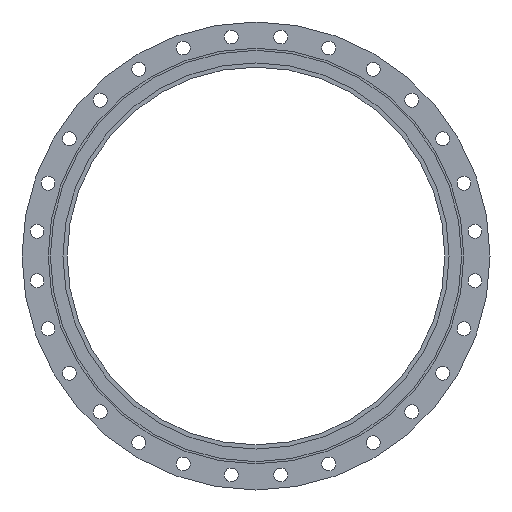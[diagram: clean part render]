
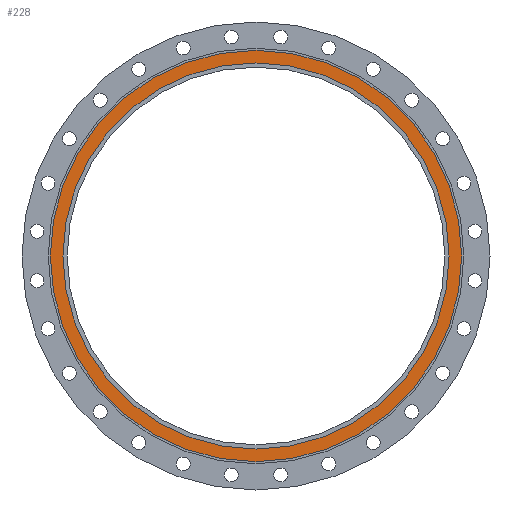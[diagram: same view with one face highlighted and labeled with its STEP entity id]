
A CAD part, left-side view. The second image highlights one B-rep face of the part: STEP entity #228.
In plain terms, the highlighted planar face has unit normal (-1, 0, 0).
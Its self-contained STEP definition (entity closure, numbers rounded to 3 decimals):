
#228=ADVANCED_FACE('',(#8395,#8397),#8399,.T.);
#8395=FACE_BOUND('',#8396,.T.);
#8396=EDGE_LOOP('',(#15845,#15846));
#8397=FACE_BOUND('',#8398,.T.);
#8398=EDGE_LOOP('',(#15847,#15848));
#8399=PLANE('',#8400);
#8400=AXIS2_PLACEMENT_3D('',#8401,#8402,#8403);
#8401=CARTESIAN_POINT('',(1345.342,23.166,0.));
#8402=DIRECTION('',(-1.,0.,0.));
#8403=DIRECTION('',(0.,0.,1.));
#15845=ORIENTED_EDGE('',*,*,#21017,.F.);
#15846=ORIENTED_EDGE('',*,*,#21018,.F.);
#15847=ORIENTED_EDGE('',*,*,#21015,.T.);
#15848=ORIENTED_EDGE('',*,*,#21016,.T.);
#21015=EDGE_CURVE('',#24461,#24462,#24463,.T.);
#21016=EDGE_CURVE('',#24462,#24461,#24464,.T.);
#21017=EDGE_CURVE('',#24465,#24466,#24467,.T.);
#21018=EDGE_CURVE('',#24466,#24465,#24468,.T.);
#24461=VERTEX_POINT('',#32751);
#24462=VERTEX_POINT('',#32752);
#24463=CIRCLE('',#32753,460.);
#24464=CIRCLE('',#32757,460.);
#24465=VERTEX_POINT('',#32761);
#24466=VERTEX_POINT('',#32762);
#24467=CIRCLE('',#32763,490.);
#24468=CIRCLE('',#32767,490.);
#32751=CARTESIAN_POINT('',(1345.342,53.166,0.));
#32752=CARTESIAN_POINT('',(1345.342,973.166,0.));
#32753=AXIS2_PLACEMENT_3D('',#32754,#32755,#32756);
#32754=CARTESIAN_POINT('',(1345.342,513.166,0.));
#32755=DIRECTION('',(1.,0.,0.));
#32756=DIRECTION('',(0.,-1.,0.));
#32757=AXIS2_PLACEMENT_3D('',#32758,#32759,#32760);
#32758=CARTESIAN_POINT('',(1345.342,513.166,0.));
#32759=DIRECTION('',(1.,0.,0.));
#32760=DIRECTION('',(0.,1.,0.));
#32761=CARTESIAN_POINT('',(1345.342,1003.166,0.));
#32762=CARTESIAN_POINT('',(1345.342,23.166,0.));
#32763=AXIS2_PLACEMENT_3D('',#32764,#32765,#32766);
#32764=CARTESIAN_POINT('',(1345.342,513.166,0.));
#32765=DIRECTION('',(1.,0.,0.));
#32766=DIRECTION('',(0.,1.,0.));
#32767=AXIS2_PLACEMENT_3D('',#32768,#32769,#32770);
#32768=CARTESIAN_POINT('',(1345.342,513.166,0.));
#32769=DIRECTION('',(1.,0.,0.));
#32770=DIRECTION('',(0.,-1.,0.));
